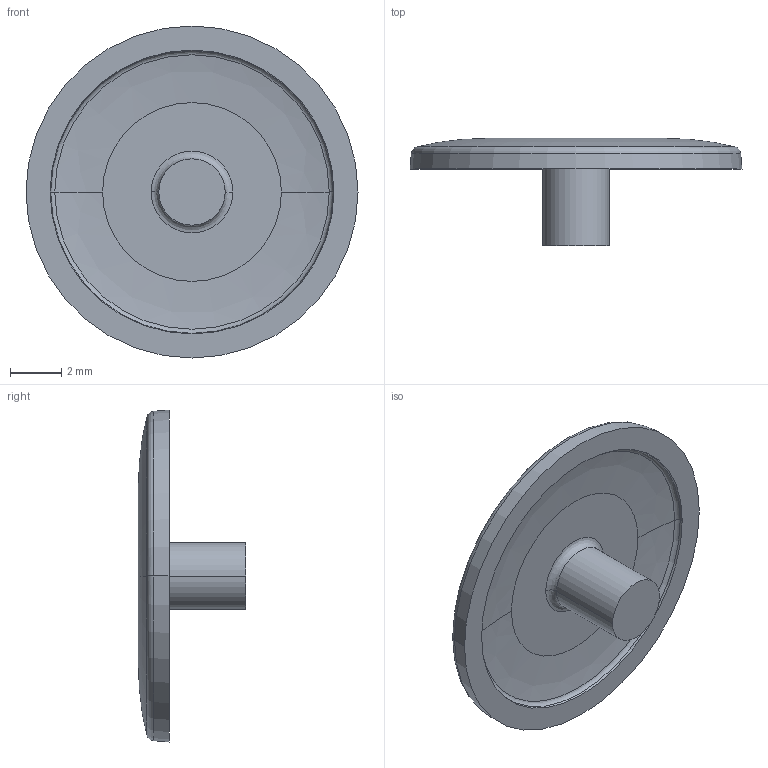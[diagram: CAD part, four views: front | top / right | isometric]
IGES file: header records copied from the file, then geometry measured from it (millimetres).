
Start section:  PTC IGES file: 21893000ab.igs
Global section: file name: 21893000ab.igs; native system: Creo Parametric by Parametric Technology Corporation; preprocessor: 2015440; author: Christian.Zonta; organization: Unknown; date: 20181004.105552; units: millimetre
Bounding box: 13 x 4.2 x 13 mm (x, y, z)
Surface area: 327.6 mm2 (no closed solid volume)
Topology: 0 solids, 0 shells, 46 faces, 186 edges, 186 vertices
Faces by surface type: revolution 31, bspline 15
